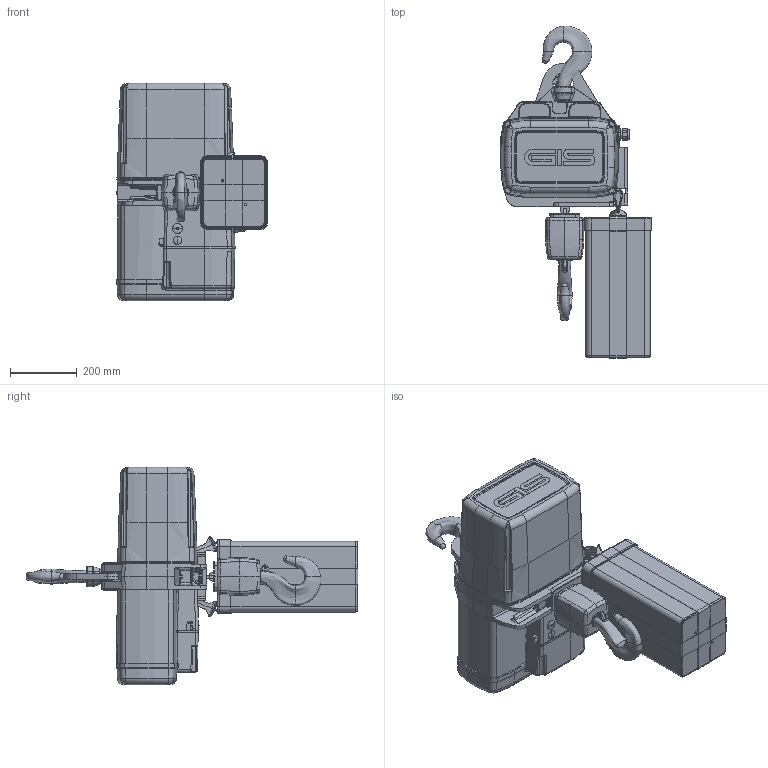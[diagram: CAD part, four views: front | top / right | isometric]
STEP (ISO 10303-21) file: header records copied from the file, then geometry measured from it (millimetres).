
FILE_DESCRIPTION(/* description */ (''),/* implementation_level */ '2;1');
FILE_NAME(/* name */ 'C:\Users\gissfl\Desktop\zwischenablage\9521.9200.L GP 2500 1str.stp',/* time_stamp */ '2020-08-10T09:59:08+02:00',/* author */ ('gissfl'),/* organization */ (''),/* preprocessor_version */ 'ST-DEVELOPER v17.2',/* originating_system */ 'Autodesk Inventor 2019',/* authorisation */ '');
FILE_SCHEMA (('AUTOMOTIVE_DESIGN { 1 0 10303 214 3 1 1 }'));
Products named in the file (1): 9521.9200.L
Bounding box: 451.21 x 991.68 x 649.5 mm (x, y, z)
Volume: 52180623.6 mm3; surface area: 2256061.5 mm2
Topology: 5 solids, 13 shells, 1865 faces, 4787 edges, 2889 vertices
Faces by surface type: cylinder 553, plane 495, bspline 482, torus 197, cone 111, sphere 27
Full cylindrical faces by diameter (mm): 3.3 x2, 6.2 x1, 7 x2, 7.5 x3, 25 x2, 28.25 x1, 30 x1, 62 x1, 156 x1
Entity records: 86782 total; most frequent: CARTESIAN_POINT 41637, ORIENTED_EDGE 9444, DIRECTION 8700, EDGE_CURVE 4722, AXIS2_PLACEMENT_3D 3412, VERTEX_POINT 2888, EDGE_LOOP 1894, LINE 1876
